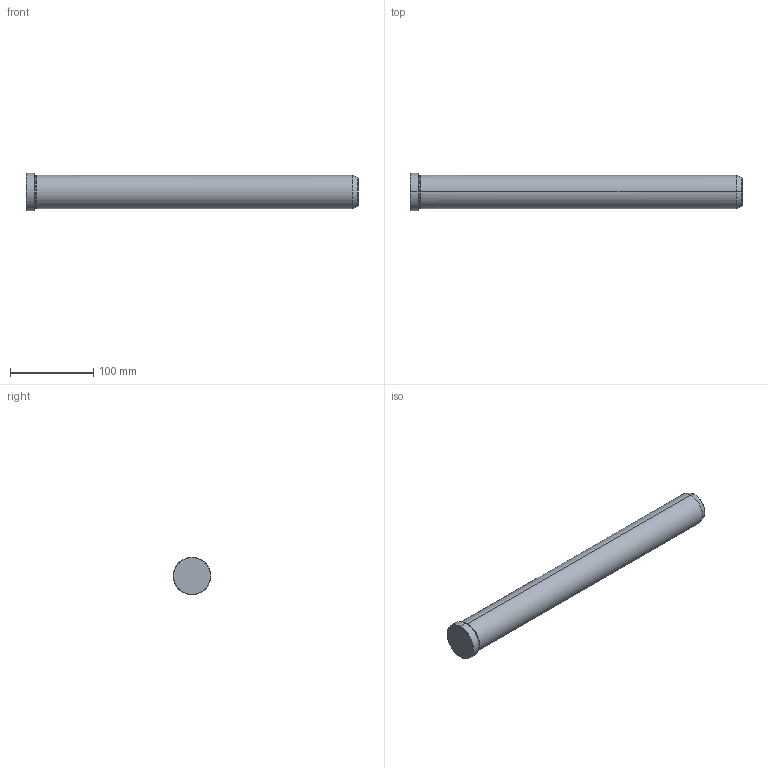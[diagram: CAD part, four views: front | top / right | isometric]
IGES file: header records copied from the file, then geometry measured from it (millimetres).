
Start section: START RECORD GO HERE.
Global section: file name: 549-40X400.igs; native system: DASSAULT SYSTEMES CATIA V5 R20 - www.3ds.com; preprocessor: CATIA Version 5 Release 20 ; author: Utente; organization: NB04-ASUS; date: 20211218.091742; units: millimetre
Bounding box: 400 x 45 x 45 mm (x, y, z)
Surface area: 53278.6 mm2 (no closed solid volume)
Topology: 0 solids, 0 shells, 19 faces, 112 edges, 112 vertices
Faces by surface type: revolution 16, plane 3
